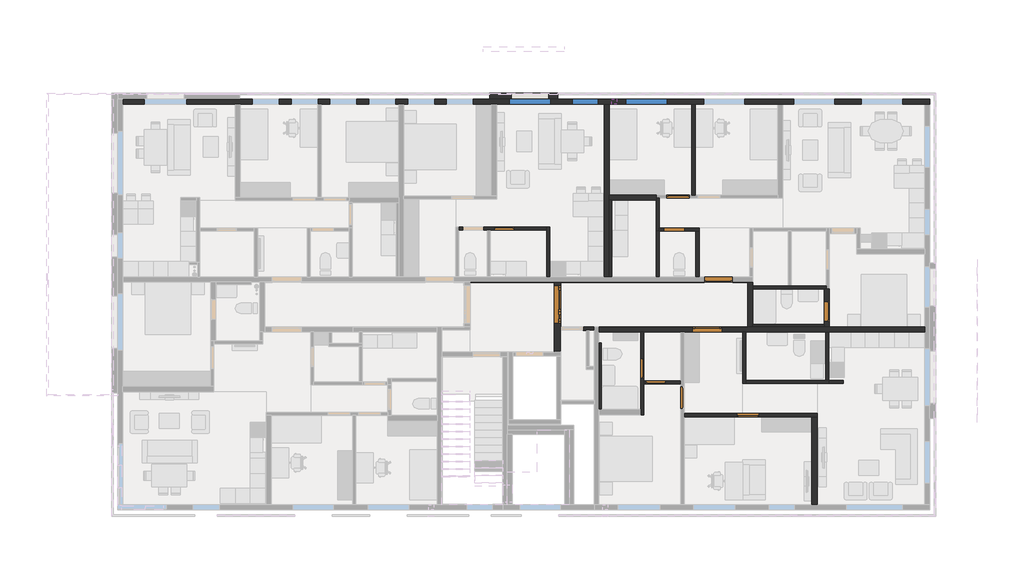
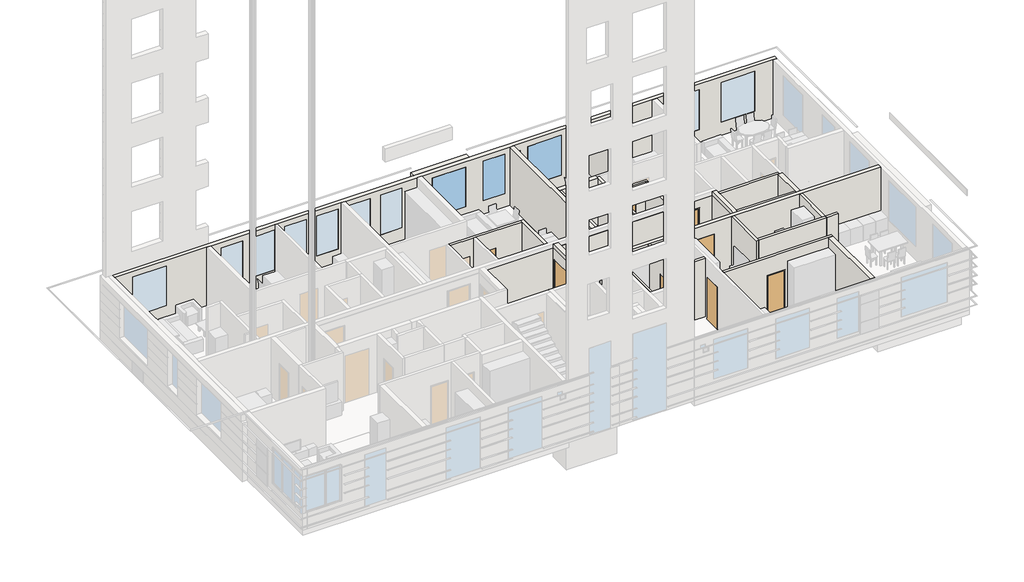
# One storey, part 6 of 11: 35 walls, 21 doors, 4 windows.
"""IFC4 building model written with IfcOpenShell, lengths in millimetres."""

from ifc_helpers import new_model, si_unit, frame, origin, place, context, project, spatial, polyline, outline, extrude, faceted_brep, transform, mapped, element, save
from components import door_0ca1aa13, door_1f93f5fc, door_3b0bb860, door_b8e875bd, door_c12ba408, door_87123fce, door_e21d8083, door_3a59e23d, door_1132ae02, door_2b45e898, door_af9a8955, window_588b83ed, window_4f46dce5, default_0834c612

model = new_model("IFC4")

# Units and contexts
model_context = context("Model", 3, world=origin())
ifc_project = project(units=[si_unit("LENGTHUNIT", "METRE", prefix="MILLI")], contexts=[model_context])

# Site, building, storey
site = spatial("IfcSite", under=ifc_project)
building = spatial("IfcBuilding", under=site)
storey = spatial("IfcBuildingStorey", under=building, Name="02_+4,400_Ж", Elevation=1200.0)

# Doors
placement = place(None, origin())
door_shape = door_0ca1aa13(model_context)
element("IfcDoor", 1, ObjectType="Dr_Проем-Простой : ДВ", at=placement, inside=storey, context=model_context, shape_type="MappedRepresentation", body=[
    mapped(door_shape, transform((146525.0000002, 119810.323015, 1200.0), x_axis=(0.0, -1.0, 0.0), y_axis=(1.0, 0.0, 0.0), z_axis=(0.0, 0.0, 1.0))),
])
door_2_shape = door_1f93f5fc(model_context)
element("IfcDoor", 2, ObjectType="Dr_Проем-Простой : ДВ", at=placement, inside=storey, context=model_context, shape_type="MappedRepresentation", body=[
    mapped(door_2_shape, transform((152294.6769838, 118599.9999987, 1200.0), x_axis=(1.0, 0.0, 0.0), y_axis=(0.0, 1.0, 0.0), z_axis=(0.0, 0.0, 1.0))),
])
element("IfcDoor", 3, ObjectType="Dr_Проем-Простой : ДВ", at=placement, inside=storey, context=model_context, shape_type="MappedRepresentation", body=[
    mapped(door_2_shape, transform((153155.3230165, 120599.9999987, 1200.0), x_axis=(-1.0, 0.0, 0.0), y_axis=(0.0, -1.0, 0.0), z_axis=(0.0, 0.0, 1.0))),
])
door_3_shape = door_3b0bb860(model_context)
element("IfcDoor", 4, ObjectType="Dr_Проем-Простой : ДВ", at=placement, inside=storey, context=model_context, shape_type="MappedRepresentation", body=[
    mapped(door_3_shape, transform((150974.5425784, 122592.4999987, 1200.0), x_axis=(1.0, 0.0, 0.0), y_axis=(0.0, 1.0, 0.0), z_axis=(0.0, 0.0, 1.0))),
])
element("IfcDoor", 5, ObjectType="Dr_Проем-Простой : ДВ", at=placement, inside=storey, context=model_context, shape_type="MappedRepresentation", body=[
    mapped(door_3_shape, transform((149912.5000001, 117255.323015, 1200.0), x_axis=(0.0, -1.0, 0.0), y_axis=(1.0, 0.0, 0.0), z_axis=(0.0, 0.0, 1.0))),
])
element("IfcDoor", 6, ObjectType="Dr_Проем-Простой : ДВ", at=placement, inside=storey, context=model_context, shape_type="MappedRepresentation", body=[
    mapped(door_3_shape, transform((144194.1769838, 122637.4999987, 1200.0), x_axis=(1.0, 0.0, 0.0), y_axis=(0.0, 1.0, 0.0), z_axis=(0.0, 0.0, 1.0))),
])
door_4_shape = door_b8e875bd(model_context)
element("IfcDoor", 7, ObjectType="Dr_Проем-Простой : ДВ", at=placement, inside=storey, context=model_context, shape_type="MappedRepresentation", body=[
    mapped(door_4_shape, transform((151134.5147768, 123917.4999987, 1200.0), x_axis=(1.0, 0.0, 0.0), y_axis=(0.0, 1.0, 0.0), z_axis=(0.0, 0.0, 1.0))),
])
element("IfcDoor", 8, ObjectType="Dr_Проем-Простой : ДВ", at=placement, inside=storey, context=model_context, shape_type="MappedRepresentation", body=[
    mapped(door_4_shape, transform((151517.5000001, 116080.323015, 1200.0), x_axis=(0.0, -1.0, 0.0), y_axis=(1.0, 0.0, 0.0), z_axis=(0.0, 0.0, 1.0))),
])
element("IfcDoor", 9, ObjectType="Dr_Проем-Простой : ДВ", at=placement, inside=storey, context=model_context, shape_type="MappedRepresentation", body=[
    mapped(door_4_shape, transform((154335.3230165, 115182.4999987, 1200.0), x_axis=(-1.0, 0.0, 0.0), y_axis=(0.0, -1.0, 0.0), z_axis=(0.0, 0.0, 1.0))),
])
element("IfcDoor", 10, ObjectType="Dr_Проем-Простой : ДВ", at=placement, inside=storey, context=model_context, shape_type="MappedRepresentation", body=[
    mapped(door_3_shape, transform((150660.3230165, 116487.4999987, 1200.0), x_axis=(-1.0, 0.0, 0.0), y_axis=(0.0, -1.0, 0.0), z_axis=(0.0, 0.0, 1.0))),
])
door_5_shape = door_c12ba408(model_context)
element("IfcDoor", 11, ObjectType="Dr_Проем-Простой : ДВ", at=placement, inside=storey, context=model_context, shape_type="MappedRepresentation", body=[
    mapped(door_5_shape, transform((157275.0000001, 119530.323015, 1200.0), x_axis=(0.0, -1.0, 0.0), y_axis=(1.0, 0.0, 0.0), z_axis=(0.0, 0.0, 1.0))),
])
door_6_shape = door_87123fce(model_context)
element("IfcDoor", 12, ObjectType="Dr_Дверь_v2.1 : ДМ Мд1 Зв3 Оп Г Брг 21-9 Л", at=placement, inside=storey, context=model_context, shape_type="MappedRepresentation", body=[
    mapped(door_6_shape, transform((154255.0000001, 115182.4999987, 1200.0), x_axis=(-1.0, 0.0, 0.0), y_axis=(0.0, -1.0, 0.0), z_axis=(0.0, 0.0, 1.0))),
])
door_7_shape = door_e21d8083(model_context)
element("IfcDoor", 13, ObjectType="Dr_Дверь_v2.1 : ДС Мд1 Оп Г Брг 21-8 Л", at=placement, inside=storey, context=model_context, shape_type="MappedRepresentation", body=[
    mapped(door_7_shape, transform((144274.5000001, 122637.4999987, 1200.0), x_axis=(1.0, 0.0, 0.0), y_axis=(0.0, 1.0, 0.0), z_axis=(0.0, 0.0, 1.0))),
])
door_8_shape = door_3a59e23d(model_context)
element("IfcDoor", 14, ObjectType="Dr_Дверь_v2.1 : ДВПС Оп Г 24-11,5 EI30", at=placement, inside=storey, context=model_context, shape_type="MappedRepresentation", body=[
    mapped(door_8_shape, transform((152375.0000001, 118599.9999987, 1200.0), x_axis=(1.0, 0.0, 0.0), y_axis=(0.0, 1.0, 0.0), z_axis=(0.0, 0.0, 1.0))),
])
element("IfcDoor", 15, ObjectType="Dr_Дверь_v2.1 : ДВПС Оп Г 24-11,5 EI30", at=placement, inside=storey, context=model_context, shape_type="MappedRepresentation", body=[
    mapped(door_8_shape, transform((153075.0000001, 120599.9999987, 1200.0), x_axis=(-1.0, 0.0, 0.0), y_axis=(0.0, -1.0, 0.0), z_axis=(0.0, 0.0, 1.0))),
])
door_9_shape = door_1132ae02(model_context)
element("IfcDoor", 16, ObjectType="Dr_Дверь_v2.1 : ДС Мд1 Оп Г Брг 21-8", at=placement, inside=storey, context=model_context, shape_type="MappedRepresentation", body=[
    mapped(door_9_shape, transform((151054.8655947, 122592.4999987, 1200.0), x_axis=(1.0, 0.0, 0.0), y_axis=(0.0, 1.0, 0.0), z_axis=(0.0, 0.0, 1.0))),
])
element("IfcDoor", 17, ObjectType="Dr_Дверь_v2.1 : ДМ Мд1 Зв3 Оп Г Брг 21-9 Л", at=placement, inside=storey, context=model_context, shape_type="MappedRepresentation", body=[
    mapped(door_6_shape, transform((151214.8377931, 123917.4999987, 1200.0), x_axis=(1.0, 0.0, 0.0), y_axis=(0.0, 1.0, 0.0), z_axis=(0.0, 0.0, 1.0))),
])
element("IfcDoor", 18, ObjectType="Dr_Дверь_v2.1 : ДС Мд1 Оп Г Брг 21-8", at=placement, inside=storey, context=model_context, shape_type="MappedRepresentation", body=[
    mapped(door_9_shape, transform((149912.5000001, 117174.9999987, 1200.0), x_axis=(0.0, -1.0, 0.0), y_axis=(1.0, 0.0, 0.0), z_axis=(0.0, 0.0, 1.0))),
])
door_10_shape = door_2b45e898(model_context)
element("IfcDoor", 19, ObjectType="Dr_Дверь_v2.1 : ДС Мд1 Зв2 Оп Г Брг 21-8 Л", at=placement, inside=storey, context=model_context, shape_type="MappedRepresentation", body=[
    mapped(door_10_shape, transform((157275.0000001, 119449.9999987, 1200.0), x_axis=(0.0, -1.0, 0.0), y_axis=(1.0, 0.0, 0.0), z_axis=(0.0, 0.0, 1.0))),
])
element("IfcDoor", 20, ObjectType="Dr_Дверь_v2.1 : ДМ Мд1 Оп Г Брг 21-8 Л", at=placement, inside=storey, context=model_context, shape_type="MappedRepresentation", body=[
    mapped(door_7_shape, transform((150580.0000001, 116487.4999987, 1200.0), x_axis=(-1.0, 0.0, 0.0), y_axis=(0.0, -1.0, 0.0), z_axis=(0.0, 0.0, 1.0))),
])
door_11_shape = door_af9a8955(model_context)
element("IfcDoor", 21, ObjectType="Dr_Дверь_v2.1 : ДВСТД Ос Дп 23-15 Л EIS60", at=placement, inside=storey, context=model_context, shape_type="MappedRepresentation", body=[
    mapped(door_11_shape, transform((146525.0000002, 119729.9999987, 1200.0), x_axis=(0.0, -1.0, 0.0), y_axis=(1.0, 0.0, 0.0), z_axis=(0.0, 0.0, 1.0))),
])

# Walls
element("IfcWall", 22, ObjectType="BW_SUB_SKZ_INT_80+40+80=200_Тип П7-------", at=placement, inside=storey, context=model_context, shape_type="Brep", body=[
    faceted_brep([(154130.0000001, 120499.9999987, 1100.0), (154130.0000001, 118699.9999987, 1100.0), (154130.0000001, 118699.9999987, 4200.0), (154130.0000001, 120499.9999987, 4200.0), (154330.0000001, 120499.9999987, 1100.0), (154330.0000001, 120499.9999987, 4200.0), (154330.0000001, 118799.9999987, 4200.0), (154330.0000001, 118699.9999987, 4200.0), (154330.0000001, 118699.9999987, 1100.0), (154330.0000001, 118799.9999987, 1100.0)], [[[0, 1, 2, 3]], [[4, 5, 6, 7, 8, 9]], [[1, 0, 4, 9, 8]], [[3, 2, 7, 6, 5]], [[0, 3, 5, 4]], [[2, 1, 8, 7]]]),
])
element("IfcWall", 23, ObjectType="BW_SUB_GKL_INT_125_Тип П9.2-------", at=placement, inside=storey, context=model_context, shape_type="Brep", body=[
    faceted_brep([(146220.0000001, 120699.9999987, 1180.0), (146220.0000001, 122699.9999987, 1180.0), (146220.0000001, 122699.9999987, 4200.0), (146220.0000001, 120699.9999987, 4200.0), (146095.0000001, 120699.9999987, 1180.0), (146095.0000001, 120699.9999987, 4200.0), (146095.0000001, 122574.9999987, 4200.0), (146095.0000001, 122699.9999987, 4200.0), (146095.0000001, 122699.9999987, 1180.0), (146095.0000001, 122574.9999987, 1180.0)], [[[0, 1, 2, 3]], [[4, 5, 6, 7, 8, 9]], [[1, 0, 4, 9, 8]], [[3, 2, 7, 6, 5]], [[0, 3, 5, 4]], [[2, 1, 8, 7]]]),
])
element("IfcWall", 24, ObjectType="BW_SUB_GKL_INT_125_Тип П9.2-------", at=placement, inside=storey, context=model_context, shape_type="Brep", body=[
    faceted_brep([(142590.0000001, 122699.9999987, 4200.0), (146095.0000001, 122699.9999987, 4200.0), (146095.0000001, 122699.9999987, 1180.0), (144799.5000001, 122699.9999987, 1180.0), (144799.5000001, 122699.9999987, 3300.0), (143999.5000001, 122699.9999987, 3300.0), (143999.5000001, 122699.9999987, 1180.0), (143555.5000001, 122699.9999987, 1180.0), (143555.5000001, 122699.9999987, 3300.0), (142755.5000001, 122699.9999987, 3300.0), (142755.5000001, 122699.9999987, 1180.0), (142590.0000001, 122699.9999987, 1180.0), (146095.0000001, 122574.9999987, 4200.0), (143840.0000001, 122574.9999987, 4200.0), (143715.0000001, 122574.9999987, 4200.0), (142590.0000001, 122574.9999987, 4200.0), (142590.0000001, 122574.9999987, 1180.0), (142755.5000001, 122574.9999987, 1180.0), (142755.5000001, 122574.9999987, 3300.0), (143555.5000001, 122574.9999987, 3300.0), (143555.5000001, 122574.9999987, 1180.0), (143715.0000001, 122574.9999987, 1180.0), (143840.0000001, 122574.9999987, 1180.0), (143999.5000001, 122574.9999987, 1180.0), (143999.5000001, 122574.9999987, 3300.0), (144799.5000001, 122574.9999987, 3300.0), (144799.5000001, 122574.9999987, 1180.0), (146095.0000001, 122574.9999987, 1180.0)], [[[0, 1, 2, 3, 4, 5, 6, 7, 8, 9, 10, 11]], [[12, 13, 14, 15, 16, 17, 18, 19, 20, 21, 22, 23, 24, 25, 26, 27]], [[16, 11, 10, 17]], [[2, 27, 26, 3]], [[20, 7, 6, 23, 22, 21]], [[1, 0, 15, 14, 13, 12]], [[0, 11, 16, 15]], [[2, 1, 12, 27]], [[9, 18, 17, 10]], [[19, 8, 7, 20]], [[18, 9, 8, 19]], [[5, 24, 23, 6]], [[25, 4, 3, 26]], [[24, 5, 4, 25]]]),
])
element("IfcWall", 25, ObjectType="BW_SUB_GKL_INT_125_Тип П9.2-------", at=placement, inside=storey, context=model_context, shape_type="SweptSolid", body=[
    extrude(outline(polyline([(152175.0000001, 122529.9999987), (152175.0000001, 120699.9999987), (152050.0000001, 120699.9999987), (152050.0000001, 122529.9999987), (152175.0000001, 122529.9999987)])), frame((0.0, 0.0, 1180.0), z_axis=(0.0, 0.0, 1.0), x_axis=(1.0, 0.0, 0.0)), (0.0, 0.0, 1.0), 3020.0),
])
element("IfcWall", 26, ObjectType="BW_SUB_GKL_INT_125_Тип П9.2-------", at=placement, inside=storey, context=model_context, shape_type="Brep", body=[
    faceted_brep([(152175.0000001, 122529.9999987, 4200.0), (152050.0000001, 122529.9999987, 4200.0), (150590.0000001, 122529.9999987, 4200.0), (150590.0000001, 122529.9999987, 1180.0), (150779.8655947, 122529.9999987, 1180.0), (150779.8655947, 122529.9999987, 3300.0), (151579.8655947, 122529.9999987, 3300.0), (151579.8655947, 122529.9999987, 1180.0), (152050.0000001, 122529.9999987, 1180.0), (152175.0000001, 122529.9999987, 1180.0), (150590.0000001, 122654.9999987, 4200.0), (152175.0000001, 122654.9999987, 4200.0), (152175.0000001, 122654.9999987, 1180.0), (151579.8655947, 122654.9999987, 1180.0), (151579.8655947, 122654.9999987, 3300.0), (150779.8655947, 122654.9999987, 3300.0), (150779.8655947, 122654.9999987, 1180.0), (150590.0000001, 122654.9999987, 1180.0)], [[[0, 1, 2, 3, 4, 5, 6, 7, 8, 9]], [[10, 11, 12, 13, 14, 15, 16, 17]], [[12, 9, 8, 7, 13]], [[3, 17, 16, 4]], [[2, 1, 0, 11, 10]], [[15, 5, 4, 16]], [[6, 14, 13, 7]], [[5, 15, 14, 6]], [[0, 9, 12, 11]], [[3, 2, 10, 17]]]),
])
element("IfcWall", 27, ObjectType="BW_SUB_GKL_INT_125_Тип П9.2-------", at=placement, inside=storey, context=model_context, shape_type="Brep", body=[
    faceted_brep([(150465.0000001, 123854.9999987, 1180.0), (150465.0000001, 123769.9999987, 1180.0), (150465.0000001, 122529.9999987, 1180.0), (150465.0000001, 122529.9999987, 4200.0), (150465.0000001, 123769.9999987, 4200.0), (150465.0000001, 123854.9999987, 4200.0), (150590.0000001, 123854.9999987, 1180.0), (150590.0000001, 123854.9999987, 4200.0), (150590.0000001, 122654.9999987, 4200.0), (150590.0000001, 122529.9999987, 4200.0), (150590.0000001, 122529.9999987, 1180.0), (150590.0000001, 122654.9999987, 1180.0)], [[[0, 1, 2, 3, 4, 5]], [[6, 7, 8, 9, 10, 11]], [[2, 1, 0, 6, 11, 10]], [[5, 4, 3, 9, 8, 7]], [[0, 5, 7, 6]], [[3, 2, 10, 9]]]),
])
element("IfcWall", 28, ObjectType="BW_SUB_GKL_INT_125_Тип П9.1-------", at=placement, inside=storey, context=model_context, shape_type="SweptSolid", body=[
    extrude(outline(polyline([(152015.0000001, 127599.9999987), (152015.0000001, 123979.9999987), (151890.0000001, 123979.9999987), (151890.0000001, 127599.9999987), (152015.0000001, 127599.9999987)])), frame((0.0, 0.0, 1180.0), z_axis=(0.0, 0.0, 1.0), x_axis=(1.0, 0.0, 0.0)), (0.0, 0.0, 1.0), 3020.0),
])
element("IfcWall", 29, ObjectType="BW_SUB_GKL_INT_125_Тип П9.2-------", at=placement, inside=storey, context=model_context, shape_type="Brep", body=[
    faceted_brep([(154330.0000001, 120224.9999987, 1180.0), (157170.0000001, 120224.9999987, 1180.0), (157255.0000001, 120224.9999987, 1180.0), (157255.0000001, 120224.9999987, 4200.0), (157170.0000001, 120224.9999987, 4200.0), (154330.0000001, 120224.9999987, 4200.0), (154330.0000001, 120349.9999987, 1180.0), (154330.0000001, 120349.9999987, 4200.0), (155730.0000001, 120349.9999987, 4200.0), (155855.0000001, 120349.9999987, 4200.0), (157255.0000001, 120349.9999987, 4200.0), (157255.0000001, 120349.9999987, 1180.0), (155855.0000001, 120349.9999987, 1180.0), (155730.0000001, 120349.9999987, 1180.0)], [[[0, 1, 2, 3, 4, 5]], [[6, 7, 8, 9, 10, 11, 12, 13]], [[2, 1, 0, 6, 13, 12, 11]], [[5, 4, 3, 10, 9, 8, 7]], [[0, 5, 7, 6]], [[3, 2, 11, 10]]]),
])
element("IfcWall", 30, ObjectType="BW_SUB_SKZ_INT_80+20=100_Тип П12-------", at=placement, inside=storey, context=model_context, shape_type="Brep", body=[
    faceted_brep([(148690.0000001, 120699.9999987, 1100.0), (148690.0000001, 123769.9999987, 1100.0), (148690.0000001, 123769.9999987, 4200.0), (148690.0000001, 120699.9999987, 4200.0), (148590.0000001, 120699.9999987, 1100.0), (148590.0000001, 120699.9999987, 4200.0), (148590.0000001, 123769.9999987, 4200.0), (148590.0000001, 123769.9999987, 1180.0), (148590.0000001, 123769.9999987, 1100.0)], [[[0, 1, 2, 3]], [[4, 5, 6, 7, 8]], [[1, 0, 4, 8]], [[3, 2, 6, 5]], [[0, 3, 5, 4]], [[2, 1, 8, 7, 6]]]),
])
element("IfcWall", 31, ObjectType="BW_SUB_GKL_INT_210_Тип П10.2-------", at=placement, inside=storey, context=model_context, shape_type="Brep", body=[
    faceted_brep([(150465.0000001, 123979.9999987, 1180.0), (148590.0000001, 123979.9999987, 1180.0), (148590.0000001, 123979.9999987, 4200.0), (150465.0000001, 123979.9999987, 4200.0), (150465.0000001, 123769.9999987, 1180.0), (150465.0000001, 123769.9999987, 4200.0), (148690.0000001, 123769.9999987, 4200.0), (148590.0000001, 123769.9999987, 4200.0), (148590.0000001, 123769.9999987, 1180.0), (150465.0000001, 123854.9999987, 1180.0), (150465.0000001, 123854.9999987, 4200.0)], [[[0, 1, 2, 3]], [[4, 5, 6, 7, 8]], [[1, 0, 9, 4, 8]], [[3, 2, 7, 6, 5, 10]], [[0, 3, 10, 5, 4, 9]], [[2, 1, 8, 7]]]),
])
element("IfcWall", 32, ObjectType="BW_SUB_SKZ_INT_80+20=100_Тип П12-------", at=placement, inside=storey, context=model_context, shape_type="SweptSolid", body=[
    extrude(outline(polyline([(154330.0000001, 118799.9999987), (157170.0000001, 118799.9999987), (157170.0000001, 118699.9999987), (154330.0000001, 118699.9999987), (154330.0000001, 118799.9999987)])), frame((0.0, 0.0, 1100.0), z_axis=(0.0, 0.0, 1.0), x_axis=(1.0, 0.0, 0.0)), (0.0, 0.0, 1.0), 3100.0),
])
element("IfcWall", 33, ObjectType="BW_SUB_GKL_INT_125_Тип П9.2-------", at=placement, inside=storey, context=model_context, shape_type="Brep", body=[
    faceted_brep([(154050.0000001, 116444.9999987, 1180.0), (154050.0000001, 116569.9999987, 1180.0), (154050.0000001, 118499.9999987, 1180.0), (154050.0000001, 118499.9999987, 4200.0), (154050.0000001, 116569.9999987, 4200.0), (154050.0000001, 116444.9999987, 4200.0), (153925.0000001, 116444.9999987, 1180.0), (153925.0000001, 116444.9999987, 4200.0), (153925.0000001, 118499.9999987, 4200.0), (153925.0000001, 118499.9999987, 1180.0)], [[[0, 1, 2, 3, 4, 5]], [[6, 7, 8, 9]], [[2, 1, 0, 6, 9]], [[3, 2, 9, 8]], [[5, 4, 3, 8, 7]], [[0, 5, 7, 6]]]),
])
element("IfcWall", 34, ObjectType="BW_SUB_GKL_INT_125_Тип П9.2-------", at=placement, inside=storey, context=model_context, shape_type="Brep", body=[
    faceted_brep([(154050.0000001, 116444.9999987, 1180.0), (157350.0000001, 116444.9999987, 1180.0), (157350.0000001, 116444.9999987, 4200.0), (154050.0000001, 116444.9999987, 4200.0), (154050.0000001, 116569.9999987, 1180.0), (154050.0000001, 116569.9999987, 4200.0), (157225.0000001, 116569.9999987, 4200.0), (157350.0000001, 116569.9999987, 4200.0), (157350.0000001, 116569.9999987, 1180.0), (157225.0000001, 116569.9999987, 1180.0)], [[[0, 1, 2, 3]], [[4, 5, 6, 7, 8, 9]], [[1, 0, 4, 9, 8]], [[3, 2, 7, 6, 5]], [[0, 3, 5, 4]], [[2, 1, 8, 7]]]),
])
element("IfcWall", 35, ObjectType="BW_SUB_GKL_INT_125_Тип П9.1-------", at=placement, inside=storey, context=model_context, shape_type="Brep", body=[
    faceted_brep([(151580.0000001, 115244.9999987, 4200.0), (156890.0000001, 115244.9999987, 4200.0), (156890.0000001, 115244.9999987, 1180.0), (154580.0000001, 115244.9999987, 1180.0), (154580.0000001, 115244.9999987, 3300.0), (153680.0000001, 115244.9999987, 3300.0), (153680.0000001, 115244.9999987, 1180.0), (151580.0000001, 115244.9999987, 1180.0), (156890.0000001, 115119.9999987, 4200.0), (156680.0000001, 115119.9999987, 4200.0), (151580.0000001, 115119.9999987, 4200.0), (151580.0000001, 115119.9999987, 1180.0), (153680.0000001, 115119.9999987, 1180.0), (153680.0000001, 115119.9999987, 3300.0), (154580.0000001, 115119.9999987, 3300.0), (154580.0000001, 115119.9999987, 1180.0), (156680.0000001, 115119.9999987, 1180.0), (156890.0000001, 115119.9999987, 1180.0)], [[[0, 1, 2, 3, 4, 5, 6, 7]], [[8, 9, 10, 11, 12, 13, 14, 15, 16, 17]], [[11, 7, 6, 12]], [[2, 17, 16, 15, 3]], [[1, 0, 10, 9, 8]], [[0, 7, 11, 10]], [[14, 4, 3, 15]], [[5, 13, 12, 6]], [[4, 14, 13, 5]], [[2, 1, 8, 17]]]),
])
element("IfcWall", 36, ObjectType="BW_SUB_GKL_INT_210_Тип П10.1-------", at=placement, inside=storey, context=model_context, shape_type="SweptSolid", body=[
    extrude(outline(polyline([(156890.0000001, 115119.9999987), (156890.0000001, 111599.9999987), (156680.0000001, 111599.9999987), (156680.0000001, 115119.9999987), (156890.0000001, 115119.9999987)])), frame((0.0, 0.0, 1180.0), z_axis=(0.0, 0.0, 1.0), x_axis=(1.0, 0.0, 0.0)), (0.0, 0.0, 1.0), 3020.0),
])
element("IfcWall", 37, ObjectType="BW_SUB_GKL_INT_125_Тип П9.1-------", at=placement, inside=storey, context=model_context, shape_type="SweptSolid", body=[
    extrude(outline(polyline([(4200.0, 151455.0000001), (4200.0, 149975.0000001), (1180.0, 149975.0000001), (1180.0, 150055.0000001), (3300.0, 150055.0000001), (3300.0, 150855.0000001), (1180.0, 150855.0000001), (1180.0, 151455.0000001), (4200.0, 151455.0000001)])), frame((0.0, 116424.9999987, 0.0), z_axis=(0.0, 1.0, 0.0), x_axis=(0.0, 0.0, 1.0)), (0.0, 0.0, 1.0), 125.0),
])
element("IfcWall", 38, ObjectType="BW_SUB_GKL_INT_125_Тип П9.2-------", at=placement, inside=storey, context=model_context, shape_type="Brep", body=[
    faceted_brep([(149975.0000001, 118499.9999987, 1180.0), (149975.0000001, 118499.9999987, 4200.0), (149975.0000001, 116549.9999987, 4200.0), (149975.0000001, 116424.9999987, 4200.0), (149975.0000001, 115199.9999987, 4200.0), (149975.0000001, 115199.9999987, 1180.0), (149975.0000001, 116424.9999987, 1180.0), (149975.0000001, 116549.9999987, 1180.0), (149975.0000001, 116649.9999987, 1180.0), (149975.0000001, 116649.9999987, 3300.0), (149975.0000001, 117449.9999987, 3300.0), (149975.0000001, 117449.9999987, 1180.0), (149850.0000001, 118499.9999987, 4200.0), (149850.0000001, 118499.9999987, 1180.0), (149850.0000001, 117449.9999987, 1180.0), (149850.0000001, 117449.9999987, 3300.0), (149850.0000001, 116649.9999987, 3300.0), (149850.0000001, 116649.9999987, 1180.0), (149850.0000001, 115409.9999987, 1180.0), (149850.0000001, 115199.9999987, 1180.0), (149850.0000001, 115199.9999987, 4200.0), (149850.0000001, 115409.9999987, 4200.0)], [[[0, 1, 2, 3, 4, 5, 6, 7, 8, 9, 10, 11]], [[12, 13, 14, 15, 16, 17, 18, 19, 20, 21]], [[13, 0, 11, 14]], [[5, 19, 18, 17, 8, 7, 6]], [[1, 0, 13, 12]], [[4, 3, 2, 1, 12, 21, 20]], [[10, 15, 14, 11]], [[16, 9, 8, 17]], [[15, 10, 9, 16]], [[5, 4, 20, 19]]]),
])
element("IfcWall", 39, ObjectType="BW_SUB_SKZ_INT_80+20=100_Тип П12-------", at=placement, inside=storey, context=model_context, shape_type="SweptSolid", body=[
    extrude(outline(polyline([(148180.0000001, 115409.9999987), (148180.0000001, 118069.9999987), (148280.0000001, 118069.9999987), (148280.0000001, 115409.9999987), (148180.0000001, 115409.9999987)])), frame((0.0, 0.0, 1100.0), z_axis=(0.0, 0.0, 1.0), x_axis=(1.0, 0.0, 0.0)), (0.0, 0.0, 1.0), 3100.0),
])
element("IfcWall", 40, ObjectType="BW_SUB_GKL_INT_125_Тип П9.2-------", at=placement, inside=storey, context=model_context, shape_type="SweptSolid", body=[
    extrude(outline(polyline([(157225.0000001, 116569.9999987), (157225.0000001, 118499.9999987), (157350.0000001, 118499.9999987), (157350.0000001, 116569.9999987), (157225.0000001, 116569.9999987)])), frame((0.0, 0.0, 1180.0), z_axis=(0.0, 0.0, 1.0), x_axis=(1.0, 0.0, 0.0)), (0.0, 0.0, 1.0), 3020.0),
])
element("IfcWall", 41, ObjectType="BW_SUB_GKL_INT_210_Тип П10.2-------", at=placement, inside=storey, context=model_context, shape_type="Brep", body=[
    faceted_brep([(157170.0000001, 118699.9999987, 1180.0), (157170.0000001, 118699.9999987, 4200.0), (157170.0000001, 120224.9999987, 4200.0), (157170.0000001, 120224.9999987, 1180.0), (157170.0000001, 119724.9999987, 1180.0), (157170.0000001, 119724.9999987, 3300.0), (157170.0000001, 118924.9999987, 3300.0), (157170.0000001, 118924.9999987, 1180.0), (157380.0000001, 118699.9999987, 4200.0), (157380.0000001, 118699.9999987, 1180.0), (157380.0000001, 118924.9999987, 1180.0), (157380.0000001, 118924.9999987, 3300.0), (157380.0000001, 119724.9999987, 3300.0), (157380.0000001, 119724.9999987, 1180.0), (157380.0000001, 120224.9999987, 1180.0), (157380.0000001, 120224.9999987, 4200.0), (157255.0000001, 120224.9999987, 1180.0), (157255.0000001, 120224.9999987, 4200.0)], [[[0, 1, 2, 3, 4, 5, 6, 7]], [[8, 9, 10, 11, 12, 13, 14, 15]], [[9, 0, 7, 10]], [[3, 16, 14, 13, 4]], [[1, 0, 9, 8]], [[2, 1, 8, 15, 17]], [[12, 5, 4, 13]], [[6, 11, 10, 7]], [[5, 12, 11, 6]], [[3, 2, 17, 15, 14, 16]]]),
])
element("IfcWall", 42, ObjectType="BW_SUB_BrF_INT_120_Тип П1-------", at=placement, inside=storey, context=model_context, shape_type="Brep", body=[
    faceted_brep([(148000.0000001, 118579.9999987, 1100.0), (148000.0000001, 118579.9999987, 4200.0), (147800.0000001, 118579.9999987, 4200.0), (147680.0000001, 118579.9999987, 4200.0), (146650.0000002, 118579.9999987, 4200.0), (146650.0000002, 118579.9999987, 4000.0), (146650.0000002, 118579.9999987, 3300.0), (147550.0000002, 118579.9999987, 3300.0), (147550.0000002, 118579.9999987, 1200.0), (147550.0000002, 118579.9999987, 1100.0), (147680.0000001, 118579.9999987, 1100.0), (147800.0000001, 118579.9999987, 1100.0), (148000.0000001, 118699.9999987, 4200.0), (148000.0000001, 118699.9999987, 1100.0), (147550.0000002, 118699.9999987, 1100.0), (147550.0000002, 118699.9999987, 1200.0), (147550.0000002, 118699.9999987, 3300.0), (146660.0000002, 118699.9999987, 3300.0), (146650.0000002, 118699.9999987, 3300.0), (146650.0000002, 118699.9999987, 4200.0)], [[[0, 1, 2, 3, 4, 5, 6, 7, 8, 9, 10, 11]], [[12, 13, 14, 15, 16, 17, 18, 19]], [[13, 0, 11, 10, 9, 14]], [[1, 0, 13, 12]], [[4, 3, 2, 1, 12, 19]], [[7, 16, 15, 14, 9, 8]], [[16, 7, 6, 18, 17]], [[4, 19, 18, 6, 5]]]),
])
element("IfcWall", 43, ObjectType="BW_SUB_BrF_INT_250_Тип П2-------", at=placement, inside=storey, context=model_context, shape_type="Brep", body=[
    faceted_brep([(146650.0000002, 120499.9999987, 1100.0), (146650.0000002, 120499.9999987, 1200.0), (146650.0000002, 120499.9999987, 4000.0), (146650.0000002, 120499.9999987, 4200.0), (146650.0000002, 118699.9999987, 4200.0), (146650.0000002, 118579.9999987, 4200.0), (146650.0000002, 117749.9999987, 4200.0), (146650.0000002, 117749.9999987, 1100.0), (146650.0000002, 118839.9999987, 1100.0), (146650.0000002, 118839.9999987, 3300.0), (146650.0000002, 118839.9999987, 3500.0), (146650.0000002, 120369.9999987, 3500.0), (146650.0000002, 120369.9999987, 1200.0), (146650.0000002, 120369.9999987, 1100.0), (146400.0000002, 120499.9999987, 4200.0), (146400.0000002, 120499.9999987, 1100.0), (146400.0000002, 120369.9999987, 1100.0), (146400.0000002, 120369.9999987, 1200.0), (146400.0000002, 120369.9999987, 3500.0), (146400.0000002, 118839.9999987, 3500.0), (146400.0000002, 118839.9999987, 1200.0), (146400.0000002, 118839.9999987, 1100.0), (146400.0000002, 117749.9999987, 1100.0), (146400.0000002, 117749.9999987, 4200.0)], [[[0, 1, 2, 3, 4, 5, 6, 7, 8, 9, 10, 11, 12, 13]], [[14, 15, 16, 17, 18, 19, 20, 21, 22, 23]], [[15, 0, 13, 16]], [[7, 22, 21, 8]], [[3, 2, 1, 0, 15, 14]], [[6, 5, 4, 3, 14, 23]], [[7, 6, 23, 22]], [[11, 18, 17, 16, 13, 12]], [[19, 10, 9, 8, 21, 20]], [[18, 11, 10, 19]]]),
])
element("IfcWall", 44, ObjectType="BW_THR_EXT_180+60+10=250_2-9 эт минплита под вентфасад и КГ-------", at=placement, inside=storey, context=model_context, shape_type="Brep", body=[
    faceted_brep([(146529.5000001, 128049.9999987, 850.0), (143829.5000001, 128049.9999987, 850.0), (143829.5000001, 128049.9999987, 1425.0), (146529.5000001, 128049.9999987, 1425.0), (143829.5000001, 128049.9999987, 4200.0), (146529.5000001, 128049.9999987, 4200.0), (146529.5000001, 128049.9999987, 3855.0), (143829.5000001, 128049.9999987, 3855.0), (143829.5000001, 128049.9999987, 3850.0), (144680.0000001, 128049.9999987, 3850.0), (144680.0000001, 128049.9999987, 3400.0), (143829.5000001, 128049.9999987, 3400.0), (146529.5000001, 128049.9999987, 3850.0), (146529.5000001, 128049.9999987, 3400.0), (146180.0000001, 128049.9999987, 3400.0), (146180.0000001, 128049.9999987, 3850.0), (146180.0000001, 128049.9999987, 3395.0), (146529.5000001, 128049.9999987, 3395.0), (146529.5000001, 128049.9999987, 2945.0), (146180.0000001, 128049.9999987, 2945.0), (146180.0000001, 128049.9999987, 2940.0), (146529.5000001, 128049.9999987, 2940.0), (146529.5000001, 128049.9999987, 2490.0), (146180.0000001, 128049.9999987, 2490.0), (146180.0000001, 128049.9999987, 2485.0), (146529.5000001, 128049.9999987, 2485.0), (146529.5000001, 128049.9999987, 1885.0), (143829.5000001, 128049.9999987, 1885.0), (143829.5000001, 128049.9999987, 2485.0), (144680.0000001, 128049.9999987, 2485.0), (144680.0000001, 128049.9999987, 1950.0), (146180.0000001, 128049.9999987, 1950.0), (143829.5000001, 128049.9999987, 1880.0), (146529.5000001, 128049.9999987, 1880.0), (146529.5000001, 128049.9999987, 1430.0), (143829.5000001, 128049.9999987, 1430.0), (143829.5000001, 128049.9999987, 3395.0), (144680.0000001, 128049.9999987, 3395.0), (144680.0000001, 128049.9999987, 2945.0), (143829.5000001, 128049.9999987, 2945.0), (143829.5000001, 128049.9999987, 2940.0), (144680.0000001, 128049.9999987, 2940.0), (144680.0000001, 128049.9999987, 2490.0), (143829.5000001, 128049.9999987, 2490.0), (143829.5000001, 127799.9999987, 850.0), (146529.5000001, 127799.9999987, 850.0), (146529.5000001, 127799.9999987, 4200.0), (143829.5000001, 127799.9999987, 4200.0), (144680.0000001, 127799.9999987, 3850.0), (146180.0000001, 127799.9999987, 3850.0), (146180.0000001, 127799.9999987, 1950.0), (144680.0000001, 127799.9999987, 1950.0), (143829.5000001, 127989.9999987, 3855.0), (143829.5000001, 127989.9999987, 3850.0), (143829.5000001, 127989.9999987, 3400.0), (143829.5000001, 127989.9999987, 3395.0), (143829.5000001, 127989.9999987, 2945.0), (143829.5000001, 127989.9999987, 2940.0), (143829.5000001, 127989.9999987, 2490.0), (143829.5000001, 127989.9999987, 2485.0), (143829.5000001, 127989.9999987, 1885.0), (143829.5000001, 127989.9999987, 1880.0), (143829.5000001, 127989.9999987, 1430.0), (143829.5000001, 127989.9999987, 1425.0), (146529.5000001, 127989.9999987, 1425.0), (146529.5000001, 127989.9999987, 1430.0), (146529.5000001, 127989.9999987, 1880.0), (146529.5000001, 127989.9999987, 1885.0), (146529.5000001, 127989.9999987, 2485.0), (146529.5000001, 127989.9999987, 2490.0), (146529.5000001, 127989.9999987, 2940.0), (146529.5000001, 127989.9999987, 2945.0), (146529.5000001, 127989.9999987, 3395.0), (146529.5000001, 127989.9999987, 3400.0), (146529.5000001, 127989.9999987, 3850.0), (146529.5000001, 127989.9999987, 3855.0), (146180.0000001, 127989.9999987, 3850.0), (144680.0000001, 127989.9999987, 3850.0), (146180.0000001, 127989.9999987, 3395.0), (146180.0000001, 127989.9999987, 3400.0), (146180.0000001, 127989.9999987, 2940.0), (146180.0000001, 127989.9999987, 2945.0), (146180.0000001, 127989.9999987, 2485.0), (146180.0000001, 127989.9999987, 2490.0), (144680.0000001, 127989.9999987, 3400.0), (144680.0000001, 127989.9999987, 3395.0), (144680.0000001, 127989.9999987, 2945.0), (144680.0000001, 127989.9999987, 2940.0), (144680.0000001, 127989.9999987, 2490.0), (144680.0000001, 127989.9999987, 2485.0)], [[[0, 1, 2, 3]], [[4, 5, 6, 7]], [[8, 9, 10, 11]], [[12, 13, 14, 15]], [[16, 17, 18, 19]], [[20, 21, 22, 23]], [[24, 25, 26, 27, 28, 29, 30, 31]], [[32, 33, 34, 35]], [[36, 37, 38, 39]], [[40, 41, 42, 43]], [[44, 45, 46, 47], [48, 49, 50, 51]], [[1, 0, 45, 44]], [[44, 47, 4, 7, 52, 53, 8, 11, 54, 55, 36, 39, 56, 57, 40, 43, 58, 59, 28, 27, 60, 61, 32, 35, 62, 63, 2, 1]], [[5, 4, 47, 46]], [[46, 45, 0, 3, 64, 65, 34, 33, 66, 67, 26, 25, 68, 69, 22, 21, 70, 71, 18, 17, 72, 73, 13, 12, 74, 75, 6, 5]], [[74, 12, 15, 76]], [[8, 53, 77, 9]], [[53, 52, 75, 74, 76, 77]], [[52, 7, 6, 75]], [[78, 72, 17, 16]], [[79, 73, 72, 78]], [[73, 79, 14, 13]], [[80, 70, 21, 20]], [[81, 71, 70, 80]], [[71, 81, 19, 18]], [[82, 68, 25, 24]], [[83, 69, 68, 82]], [[69, 83, 23, 22]], [[32, 61, 66, 33]], [[61, 60, 67, 66]], [[60, 27, 26, 67]], [[63, 64, 3, 2]], [[62, 65, 64, 63]], [[65, 62, 35, 34]], [[84, 54, 11, 10]], [[54, 84, 85, 55]], [[55, 85, 37, 36]], [[86, 56, 39, 38]], [[56, 86, 87, 57]], [[57, 87, 41, 40]], [[88, 58, 43, 42]], [[58, 88, 89, 59]], [[59, 89, 29, 28]], [[49, 48, 77, 76]], [[51, 30, 29, 89, 88, 42, 41, 87, 86, 38, 37, 85, 84, 10, 9, 77, 48]], [[30, 51, 50, 31]], [[31, 50, 49, 76, 15, 14, 79, 78, 16, 19, 81, 80, 20, 23, 83, 82, 24]]]),
])
element("IfcWall", 45, ObjectType="BW_FN2_10_внутр отделка МОП-------", at=placement, inside=storey, context=model_context, shape_type="Brep", body=[
    faceted_brep([(146650.0000002, 118699.9999987, 4000.0), (146650.0000002, 120499.9999987, 4000.0), (146650.0000002, 120499.9999987, 1200.0), (146650.0000002, 120369.9999987, 1200.0), (146650.0000002, 120369.9999987, 3500.0), (146650.0000002, 118839.9999987, 3500.0), (146650.0000002, 118839.9999987, 3300.0), (146650.0000002, 118699.9999987, 3300.0), (146660.0000002, 120499.9999987, 4000.0), (146660.0000002, 120489.9999987, 4000.0), (146660.0000002, 118709.9999987, 4000.0), (146660.0000002, 118699.9999987, 4000.0), (146660.0000002, 118699.9999987, 3300.0), (146660.0000002, 118709.9999987, 3300.0), (146660.0000002, 118839.9999987, 3300.0), (146660.0000002, 118839.9999987, 3500.0), (146660.0000002, 120369.9999987, 3500.0), (146660.0000002, 120369.9999987, 1200.0), (146660.0000002, 120489.9999987, 1200.0), (146660.0000002, 120499.9999987, 1200.0)], [[[0, 1, 2, 3, 4, 5, 6, 7]], [[8, 9, 10, 11, 12, 13, 14, 15, 16, 17, 18, 19]], [[2, 19, 18, 17, 3]], [[1, 0, 11, 10, 9, 8]], [[2, 1, 8, 19]], [[11, 0, 7, 12]], [[16, 4, 3, 17]], [[5, 15, 14, 6]], [[4, 16, 15, 5]], [[7, 6, 14, 13, 12]]]),
])
element("IfcWall", 46, ObjectType="BW_FN2_10_внутр отделка МОП-------", at=placement, inside=storey, context=model_context, shape_type="Brep", body=[
    faceted_brep([(146660.0000002, 118709.9999987, 4000.0), (154120.0000001, 118709.9999987, 4000.0), (154130.0000001, 118709.9999987, 4000.0), (154130.0000001, 118709.9999987, 1200.0), (154120.0000001, 118709.9999987, 1200.0), (153075.0000001, 118709.9999987, 1200.0), (153075.0000001, 118709.9999987, 3600.0), (151925.0000001, 118709.9999987, 3600.0), (151925.0000001, 118709.9999987, 1200.0), (147550.0000002, 118709.9999987, 1200.0), (147550.0000002, 118709.9999987, 3300.0), (146660.0000002, 118709.9999987, 3300.0), (154130.0000001, 118699.9999987, 4000.0), (146660.0000002, 118699.9999987, 4000.0), (146660.0000002, 118699.9999987, 3300.0), (147550.0000002, 118699.9999987, 3300.0), (147550.0000002, 118699.9999987, 1200.0), (151925.0000001, 118699.9999987, 1200.0), (151925.0000001, 118699.9999987, 3600.0), (153075.0000001, 118699.9999987, 3600.0), (153075.0000001, 118699.9999987, 1200.0), (154130.0000001, 118699.9999987, 1200.0)], [[[0, 1, 2, 3, 4, 5, 6, 7, 8, 9, 10, 11]], [[12, 13, 14, 15, 16, 17, 18, 19, 20, 21]], [[3, 21, 20, 5, 4]], [[8, 17, 16, 9]], [[2, 1, 0, 13, 12]], [[3, 2, 12, 21]], [[13, 0, 11, 14]], [[7, 18, 17, 8]], [[19, 6, 5, 20]], [[18, 7, 6, 19]], [[15, 10, 9, 16]], [[10, 15, 14, 11]]]),
])
element("IfcWall", 47, ObjectType="BW_FN2_10_внутр отделка МОП-------", at=placement, inside=storey, context=model_context, shape_type="Brep", body=[
    faceted_brep([(154130.0000001, 118709.9999987, 1200.0), (154130.0000001, 120499.9999987, 1200.0), (154130.0000001, 120499.9999987, 4000.0), (154130.0000001, 118709.9999987, 4000.0), (154120.0000001, 118709.9999987, 1200.0), (154120.0000001, 118709.9999987, 4000.0), (154120.0000001, 120489.9999987, 4000.0), (154120.0000001, 120499.9999987, 4000.0), (154120.0000001, 120499.9999987, 1200.0), (154120.0000001, 120489.9999987, 1200.0)], [[[0, 1, 2, 3]], [[4, 5, 6, 7, 8, 9]], [[1, 0, 4, 9, 8]], [[3, 2, 7, 6, 5]], [[2, 1, 8, 7]], [[0, 3, 5, 4]]]),
])
element("IfcWall", 48, ObjectType="BW_FN2_10_внутр отделка МОП-------", at=placement, inside=storey, context=model_context, shape_type="SweptSolid", body=[
    extrude(outline(polyline([(4000.0, 154120.0000001), (4000.0, 146660.0000002), (1200.0, 146660.0000002), (1200.0, 152375.0000001), (3600.0, 152375.0000001), (3600.0, 153525.0000001), (1200.0, 153525.0000001), (1200.0, 154120.0000001), (4000.0, 154120.0000001)])), frame((0.0, 120489.9999987, 0.0), z_axis=(0.0, 1.0, 0.0), x_axis=(0.0, 0.0, 1.0)), (0.0, 0.0, 1.0), 10.0),
])
element("IfcWall", 49, ObjectType="BW_FN2_10_внутр отделка МОП-------", at=placement, inside=storey, context=model_context, shape_type="Brep", body=[
    faceted_brep([(146400.0000002, 120499.9999987, 1200.0), (143055.0000002, 120499.9999987, 1200.0), (143055.0000002, 120499.9999987, 4000.0), (146400.0000002, 120499.9999987, 4000.0), (146400.0000002, 120489.9999987, 1200.0), (146400.0000002, 120489.9999987, 4000.0), (146390.0000002, 120489.9999987, 4000.0), (143055.0000002, 120489.9999987, 4000.0), (143055.0000002, 120489.9999987, 1200.0), (146390.0000002, 120489.9999987, 1200.0)], [[[0, 1, 2, 3]], [[4, 5, 6, 7, 8, 9]], [[1, 0, 4, 9, 8]], [[2, 1, 8, 7]], [[3, 2, 7, 6, 5]], [[0, 3, 5, 4]]]),
])
element("IfcWall", 50, ObjectType="BW_FN2_10_внутр отделка МОП-------", at=placement, inside=storey, context=model_context, shape_type="SweptSolid", body=[
    extrude(outline(polyline([(117709.9999987, 4000.0), (120489.9999987, 4000.0), (120489.9999987, 1200.0), (120369.9999987, 1200.0), (120369.9999987, 3500.0), (118839.9999987, 3500.0), (118839.9999987, 1200.0), (117709.9999987, 1200.0), (117709.9999987, 4000.0)])), frame((146390.0000002, 0.0, 0.0), z_axis=(1.0, 0.0, 0.0), x_axis=(0.0, 1.0, 0.0)), (0.0, 0.0, 1.0), 10.0),
])
element("IfcWall", 51, ObjectType="BW_FN2_10_внутр отделка тех.пом поэтажные-------", at=placement, inside=storey, context=model_context, shape_type="SweptSolid", body=[
    extrude(outline(polyline([(4000.0, 147670.0000001), (4000.0, 146650.0000001), (3300.0, 146650.0000001), (3300.0, 147550.0000002), (1200.0, 147550.0000002), (1200.0, 147670.0000001), (4000.0, 147670.0000001)])), frame((0.0, 118569.9999987, 0.0), z_axis=(0.0, 1.0, 0.0), x_axis=(0.0, 0.0, 1.0)), (0.0, 0.0, 1.0), 10.0),
])
element("IfcWall", 52, ObjectType="BW_SUB_GKL_INT_125_Тип П9.1_огибание в торцах-------", at=placement, inside=storey, context=model_context, shape_type="SweptSolid", body=[
    extrude(outline(polyline([(157930.0000001, 116444.9999987), (157350.0000001, 116444.9999987), (157350.0000001, 116569.9999987), (157930.0000001, 116569.9999987), (157930.0000001, 116444.9999987)])), frame((0.0, 0.0, 1180.0), z_axis=(0.0, 0.0, 1.0), x_axis=(1.0, 0.0, 0.0)), (0.0, 0.0, 1.0), 3020.0),
])
element("IfcWall", 53, ObjectType="BW_SUB_GKL_INT_125_Тип П9.3-------", at=placement, inside=storey, context=model_context, shape_type="SweptSolid", body=[
    extrude(outline(polyline([(150465.0000001, 120699.9999987), (150465.0000001, 122529.9999987), (150590.0000001, 122529.9999987), (150590.0000001, 120699.9999987), (150465.0000001, 120699.9999987)])), frame((0.0, 0.0, 1180.0), z_axis=(0.0, 0.0, 1.0), x_axis=(1.0, 0.0, 0.0)), (0.0, 0.0, 1.0), 3020.0),
])
element("IfcWall", 54, ObjectType="BW_STR_CIP_UP_EXT_200-------", at=placement, inside=storey, context=model_context, shape_type="Brep", body=[
    faceted_brep([(129180.0000001, 127599.9999987, 1098.886009), (161180.0000001, 127599.9999987, 1098.886009), (161380.0000001, 127599.9999987, 1098.886009), (161380.0000001, 127599.9999987, 4200.0), (161180.0000001, 127599.9999987, 4200.0), (148590.0000001, 127599.9999987, 4200.0), (148390.0000001, 127599.9999987, 4200.0), (140390.0000001, 127599.9999987, 4200.0), (140190.0000001, 127599.9999987, 4200.0), (133865.0000001, 127599.9999987, 4200.0), (133655.0000001, 127599.9999987, 4200.0), (129180.0000001, 127599.9999987, 4200.0), (134360.0000001, 127599.9999987, 1880.0), (134360.0000001, 127599.9999987, 3920.0), (135400.0000001, 127599.9999987, 3920.0), (135400.0000001, 127599.9999987, 1880.0), (135910.0000001, 127599.9999987, 1880.0), (135910.0000001, 127599.9999987, 3920.0), (136950.0000001, 127599.9999987, 3920.0), (136950.0000001, 127599.9999987, 1880.0), (137460.0000001, 127599.9999987, 1880.0), (137460.0000001, 127599.9999987, 3920.0), (138500.0000001, 127599.9999987, 3920.0), (138500.0000001, 127599.9999987, 1880.0), (139010.0000001, 127599.9999987, 1880.0), (139010.0000001, 127599.9999987, 3920.0), (140050.0000001, 127599.9999987, 3920.0), (140050.0000001, 127599.9999987, 1880.0), (142110.0000001, 127599.9999987, 1880.0), (142110.0000001, 127599.9999987, 3920.0), (143150.0000001, 127599.9999987, 3920.0), (143150.0000001, 127599.9999987, 1880.0), (140560.0000001, 127599.9999987, 1880.0), (140560.0000001, 127599.9999987, 3920.0), (141600.0000001, 127599.9999987, 3920.0), (141600.0000001, 127599.9999987, 1880.0), (147110.0000001, 127599.9999987, 1880.0), (147110.0000001, 127599.9999987, 3920.0), (148150.0000001, 127599.9999987, 3920.0), (148150.0000001, 127599.9999987, 1880.0), (144610.0000001, 127599.9999987, 1880.0), (144610.0000001, 127599.9999987, 3920.0), (146250.0000001, 127599.9999987, 3920.0), (146250.0000001, 127599.9999987, 1880.0), (149260.0000001, 127599.9999987, 1880.0), (149260.0000001, 127599.9999987, 3920.0), (150900.0000001, 127599.9999987, 3920.0), (150900.0000001, 127599.9999987, 1880.0), (152360.0000001, 127599.9999987, 1880.0), (152360.0000001, 127599.9999987, 3920.0), (154000.0000001, 127599.9999987, 3920.0), (154000.0000001, 127599.9999987, 1880.0), (155960.0000001, 127599.9999987, 1880.0), (155960.0000001, 127599.9999987, 3920.0), (157600.0000001, 127599.9999987, 3920.0), (157600.0000001, 127599.9999987, 1880.0), (158660.0000001, 127599.9999987, 1880.0), (158660.0000001, 127599.9999987, 3920.0), (160300.0000001, 127599.9999987, 3920.0), (160300.0000001, 127599.9999987, 1880.0), (130060.0000001, 127599.9999987, 1880.0), (130060.0000001, 127599.9999987, 3920.0), (131700.0000001, 127599.9999987, 3920.0), (131700.0000001, 127599.9999987, 1880.0), (148690.0000001, 127599.9999987, 3844.0), (148890.0000001, 127599.9999987, 3844.0), (148890.0000001, 127599.9999987, 3644.0), (148690.0000001, 127599.9999987, 3644.0), (129180.0000001, 127799.9999987, 1098.886009), (129180.0000001, 127799.9999987, 4200.0), (143829.5000001, 127799.9999987, 4200.0), (146529.5000001, 127799.9999987, 4200.0), (146679.5000001, 127799.9999987, 4200.0), (161380.0000001, 127799.9999987, 4200.0), (161380.0000001, 127799.9999987, 1098.886009), (134360.0000001, 127799.9999987, 3920.0), (134360.0000001, 127799.9999987, 1880.0), (135400.0000001, 127799.9999987, 1880.0), (135400.0000001, 127799.9999987, 3920.0), (135910.0000001, 127799.9999987, 3920.0), (135910.0000001, 127799.9999987, 1880.0), (136950.0000001, 127799.9999987, 1880.0), (136950.0000001, 127799.9999987, 3920.0), (137460.0000001, 127799.9999987, 3920.0), (137460.0000001, 127799.9999987, 1880.0), (138500.0000001, 127799.9999987, 1880.0), (138500.0000001, 127799.9999987, 3920.0), (139010.0000001, 127799.9999987, 3920.0), (139010.0000001, 127799.9999987, 1880.0), (140050.0000001, 127799.9999987, 1880.0), (140050.0000001, 127799.9999987, 3920.0), (142110.0000001, 127799.9999987, 3920.0), (142110.0000001, 127799.9999987, 1880.0), (143150.0000001, 127799.9999987, 1880.0), (143150.0000001, 127799.9999987, 3920.0), (140560.0000001, 127799.9999987, 3920.0), (140560.0000001, 127799.9999987, 1880.0), (141600.0000001, 127799.9999987, 1880.0), (141600.0000001, 127799.9999987, 3920.0), (147110.0000001, 127799.9999987, 3920.0), (147110.0000001, 127799.9999987, 1880.0), (148150.0000001, 127799.9999987, 1880.0), (148150.0000001, 127799.9999987, 3920.0), (144610.0000001, 127799.9999987, 3920.0), (144610.0000001, 127799.9999987, 1880.0), (146250.0000001, 127799.9999987, 1880.0), (146250.0000001, 127799.9999987, 3920.0), (149260.0000001, 127799.9999987, 3920.0), (149260.0000001, 127799.9999987, 1880.0), (150900.0000001, 127799.9999987, 1880.0), (150900.0000001, 127799.9999987, 3920.0), (152360.0000001, 127799.9999987, 3920.0), (152360.0000001, 127799.9999987, 1880.0), (154000.0000001, 127799.9999987, 1880.0), (154000.0000001, 127799.9999987, 3920.0), (155960.0000001, 127799.9999987, 3920.0), (155960.0000001, 127799.9999987, 1880.0), (157600.0000001, 127799.9999987, 1880.0), (157600.0000001, 127799.9999987, 3920.0), (158660.0000001, 127799.9999987, 3920.0), (158660.0000001, 127799.9999987, 1880.0), (160300.0000001, 127799.9999987, 1880.0), (160300.0000001, 127799.9999987, 3920.0), (130060.0000001, 127799.9999987, 3920.0), (130060.0000001, 127799.9999987, 1880.0), (131700.0000001, 127799.9999987, 1880.0), (131700.0000001, 127799.9999987, 3920.0), (148690.0000001, 127799.9999987, 3844.0), (148690.0000001, 127799.9999987, 3644.0), (148890.0000001, 127799.9999987, 3644.0), (148890.0000001, 127799.9999987, 3844.0)], [[[0, 1, 2, 3, 4, 5, 6, 7, 8, 9, 10, 11], [12, 13, 14, 15], [16, 17, 18, 19], [20, 21, 22, 23], [24, 25, 26, 27], [28, 29, 30, 31], [32, 33, 34, 35], [36, 37, 38, 39], [40, 41, 42, 43], [44, 45, 46, 47], [48, 49, 50, 51], [52, 53, 54, 55], [56, 57, 58, 59], [60, 61, 62, 63], [64, 65, 66, 67]], [[68, 69, 70, 71, 72, 73, 74], [75, 76, 77, 78], [79, 80, 81, 82], [83, 84, 85, 86], [87, 88, 89, 90], [91, 92, 93, 94], [95, 96, 97, 98], [99, 100, 101, 102], [103, 104, 105, 106], [107, 108, 109, 110], [111, 112, 113, 114], [115, 116, 117, 118], [119, 120, 121, 122], [123, 124, 125, 126], [127, 128, 129, 130]], [[2, 1, 0, 68, 74]], [[11, 10, 9, 8, 7, 6, 5, 4, 3, 73, 72, 71, 70, 69]], [[3, 2, 74, 73]], [[0, 11, 69, 68]], [[75, 13, 12, 76]], [[76, 12, 15, 77]], [[77, 15, 14, 78]], [[13, 75, 78, 14]], [[79, 17, 16, 80]], [[80, 16, 19, 81]], [[81, 19, 18, 82]], [[17, 79, 82, 18]], [[83, 21, 20, 84]], [[84, 20, 23, 85]], [[85, 23, 22, 86]], [[21, 83, 86, 22]], [[87, 25, 24, 88]], [[88, 24, 27, 89]], [[89, 27, 26, 90]], [[25, 87, 90, 26]], [[91, 29, 28, 92]], [[92, 28, 31, 93]], [[93, 31, 30, 94]], [[29, 91, 94, 30]], [[95, 33, 32, 96]], [[96, 32, 35, 97]], [[97, 35, 34, 98]], [[33, 95, 98, 34]], [[99, 37, 36, 100]], [[100, 36, 39, 101]], [[101, 39, 38, 102]], [[37, 99, 102, 38]], [[103, 41, 40, 104]], [[104, 40, 43, 105]], [[105, 43, 42, 106]], [[41, 103, 106, 42]], [[107, 45, 44, 108]], [[108, 44, 47, 109]], [[109, 47, 46, 110]], [[45, 107, 110, 46]], [[111, 49, 48, 112]], [[112, 48, 51, 113]], [[113, 51, 50, 114]], [[49, 111, 114, 50]], [[115, 53, 52, 116]], [[116, 52, 55, 117]], [[117, 55, 54, 118]], [[53, 115, 118, 54]], [[119, 57, 56, 120]], [[120, 56, 59, 121]], [[121, 59, 58, 122]], [[57, 119, 122, 58]], [[123, 61, 60, 124]], [[124, 60, 63, 125]], [[125, 63, 62, 126]], [[61, 123, 126, 62]], [[128, 127, 64, 67]], [[129, 128, 67, 66]], [[130, 129, 66, 65]], [[127, 130, 65, 64]]]),
])
element("IfcWall", 55, ObjectType="BW_STR_CIP_UP_INT_200-------", at=placement, inside=storey, context=model_context, shape_type="Brep", body=[
    faceted_brep([(148590.0000001, 120699.9999987, 1100.0), (148590.0000001, 127599.9999987, 1100.0), (148590.0000001, 127599.9999987, 4200.0), (148590.0000001, 123979.9999987, 4200.0), (148590.0000001, 123769.9999987, 4200.0), (148590.0000001, 120699.9999987, 4200.0), (148390.0000001, 120699.9999987, 1100.0), (148390.0000001, 120699.9999987, 4200.0), (148390.0000001, 127599.9999987, 4200.0), (148390.0000001, 127599.9999987, 1100.0)], [[[0, 1, 2, 3, 4, 5]], [[6, 7, 8, 9]], [[1, 0, 6, 9]], [[5, 4, 3, 2, 8, 7]], [[0, 5, 7, 6]], [[2, 1, 9, 8]]]),
])
element("IfcWall", 56, ObjectType="BW_STR_CIP_UP_INT_200-------", at=placement, inside=storey, context=model_context, shape_type="Brep", body=[
    faceted_brep([(148180.0000001, 118699.9999987, 1100.0), (148180.0000001, 118699.9999987, 4200.0), (161180.0000001, 118699.9999987, 4200.0), (161180.0000001, 118699.9999987, 1100.0), (153075.0000001, 118699.9999987, 1100.0), (153075.0000001, 118699.9999987, 1200.0), (153075.0000001, 118699.9999987, 3600.0), (151925.0000001, 118699.9999987, 3600.0), (151925.0000001, 118699.9999987, 1200.0), (151925.0000001, 118699.9999987, 1100.0), (148180.0000001, 118499.9999987, 4200.0), (148180.0000001, 118499.9999987, 1100.0), (151925.0000001, 118499.9999987, 1100.0), (151925.0000001, 118499.9999987, 3600.0), (153075.0000001, 118499.9999987, 3600.0), (153075.0000001, 118499.9999987, 1100.0), (161180.0000001, 118499.9999987, 1100.0), (161180.0000001, 118499.9999987, 4200.0)], [[[0, 1, 2, 3, 4, 5, 6, 7, 8, 9]], [[10, 11, 12, 13, 14, 15, 16, 17]], [[11, 0, 9, 12]], [[3, 16, 15, 4]], [[1, 0, 11, 10]], [[2, 1, 10, 17]], [[7, 13, 12, 9, 8]], [[14, 6, 5, 4, 15]], [[13, 7, 6, 14]], [[3, 2, 17, 16]]]),
])

# Windows
window_shape = window_588b83ed(model_context)
element("IfcWindow", 57, ObjectType="Dr_Проем-Четверти_об модель : ОК", at=placement, inside=storey, context=model_context, shape_type="MappedRepresentation", body=[
    mapped(window_shape, transform((147495.0000001, 127699.9999987, 1950.0), x_axis=(1.0, 0.0, 0.0), y_axis=(0.0, 1.0, 0.0), z_axis=(0.0, 0.0, 1.0))),
])
window_2_shape = window_4f46dce5(model_context)
element("IfcWindow", 58, ObjectType="Dr_Проем-Четверти_об модель : ОК", at=placement, inside=storey, context=model_context, shape_type="MappedRepresentation", body=[
    mapped(window_2_shape, transform((145295.0000001, 127699.9999987, 1950.0), x_axis=(1.0, 0.0, 0.0), y_axis=(0.0, 1.0, 0.0), z_axis=(0.0, 0.0, 1.0))),
])
element("IfcWindow", 59, ObjectType="Dr_Проем-Четверти_об модель : ОК", at=placement, inside=storey, context=model_context, shape_type="MappedRepresentation", body=[
    mapped(window_2_shape, transform((149945.0000001, 127699.9999987, 1950.0), x_axis=(1.0, 0.0, 0.0), y_axis=(0.0, 1.0, 0.0), z_axis=(0.0, 0.0, 1.0))),
])
default_shape = default_0834c612(model_context)
element("IfcWindow", 60, ObjectType="Wn_Отв-П в стене : default", at=placement, inside=storey, context=model_context, shape_type="MappedRepresentation", body=[
    mapped(default_shape, transform((148665.0000001, 127699.9999987, 3644.0), x_axis=(1.0, 0.0, 0.0), y_axis=(0.0, 1.0, 0.0), z_axis=(0.0, 0.0, 1.0))),
])

save(model, "model.ifc")
